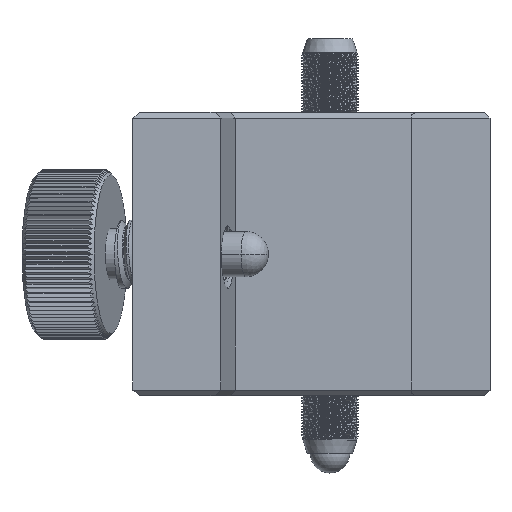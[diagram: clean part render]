
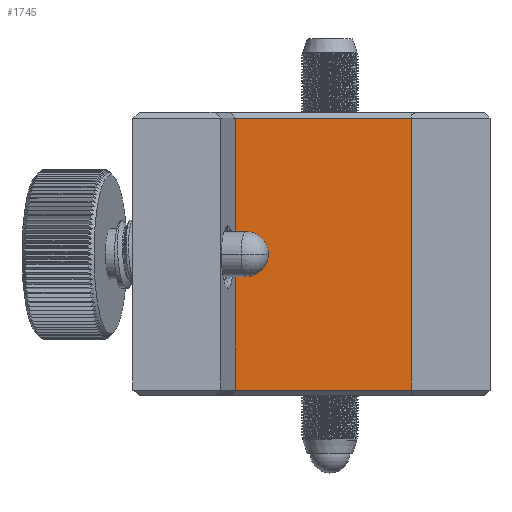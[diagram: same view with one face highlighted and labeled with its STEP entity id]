
A CAD part, top view. The second image highlights one B-rep face of the part: STEP entity #1745.
In plain terms, the highlighted planar face has unit normal (0, 0, 1).
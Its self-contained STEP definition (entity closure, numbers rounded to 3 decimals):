
#127=DIRECTION('',(1.,0.,0.));
#128=VECTOR('',#127,19.077);
#129=CARTESIAN_POINT('',(-9.,-3021.5,-9.5));
#130=LINE('',#129,#128);
#139=DIRECTION('',(0.,-1.,0.));
#140=VECTOR('',#139,24.);
#141=CARTESIAN_POINT('',(10.077,-2997.5,-9.5));
#142=LINE('',#141,#140);
#185=DIRECTION('',(0.,1.,0.));
#186=VECTOR('',#185,24.);
#187=CARTESIAN_POINT('',(-9.,-3021.5,-9.5));
#188=LINE('',#187,#186);
#1241=DIRECTION('',(-1.,0.,0.));
#1242=VECTOR('',#1241,19.077);
#1243=CARTESIAN_POINT('',(10.077,-2997.5,-9.5));
#1244=LINE('',#1243,#1242);
#1421=CARTESIAN_POINT('',(-9.,-3021.5,-9.5));
#1423=VERTEX_POINT('',#1421);
#1458=CARTESIAN_POINT('',(-9.,-2997.5,-9.5));
#1460=VERTEX_POINT('',#1458);
#1489=CARTESIAN_POINT('',(10.077,-3021.5,-9.5));
#1490=VERTEX_POINT('',#1489);
#1491=CARTESIAN_POINT('',(10.077,-2997.5,-9.5));
#1493=VERTEX_POINT('',#1491);
#1731=CARTESIAN_POINT('',(9.5,-3022.,-9.5));
#1732=DIRECTION('',(0.,0.,1.));
#1733=DIRECTION('',(-1.,0.,0.));
#1734=AXIS2_PLACEMENT_3D('',#1731,#1732,#1733);
#1735=PLANE('',#1734);
#1736=ORIENTED_EDGE('',*,*,#1722,.F.);
#1738=ORIENTED_EDGE('',*,*,#1737,.T.);
#1740=ORIENTED_EDGE('',*,*,#1739,.F.);
#1742=ORIENTED_EDGE('',*,*,#1741,.T.);
#1743=EDGE_LOOP('',(#1736,#1738,#1740,#1742));
#1744=FACE_OUTER_BOUND('',#1743,.F.);
#1745=ADVANCED_FACE('',(#1744),#1735,.T.);
#1722=EDGE_CURVE('',#1423,#1490,#130,.T.);
#1737=EDGE_CURVE('',#1423,#1460,#188,.T.);
#1739=EDGE_CURVE('',#1493,#1460,#1244,.T.);
#1741=EDGE_CURVE('',#1493,#1490,#142,.T.);
